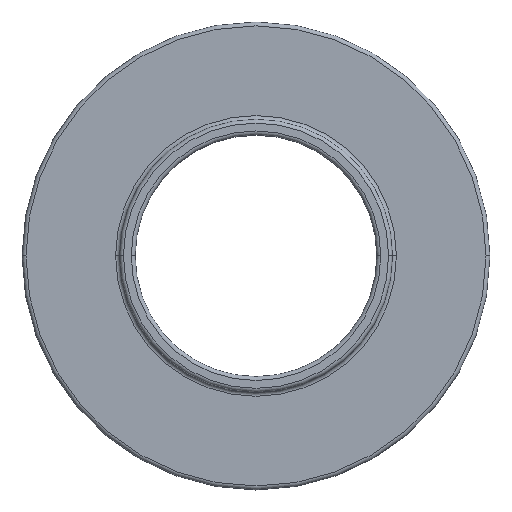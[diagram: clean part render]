
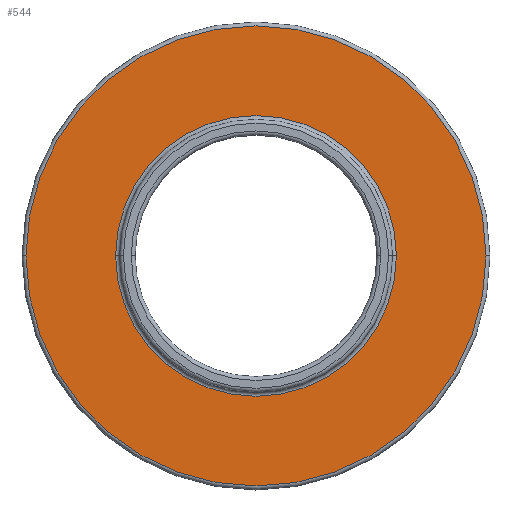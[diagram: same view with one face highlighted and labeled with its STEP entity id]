
A CAD part, top view. The second image highlights one B-rep face of the part: STEP entity #544.
In plain terms, the highlighted planar face has unit normal (0, 0, 1).
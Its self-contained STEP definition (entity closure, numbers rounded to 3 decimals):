
#187 = ORIENTED_EDGE ( 'NONE', *, *, #491, .T. ) ;
#230 = FACE_OUTER_BOUND ( 'NONE', #519, .T. ) ;
#231 = FACE_BOUND ( 'NONE', #576, .T. ) ;
#232 = PLANE ( 'NONE',  #233 ) ;
#233 = AXIS2_PLACEMENT_3D ( 'NONE', #234, #235, #236 ) ;
#234 = CARTESIAN_POINT ( 'NONE',  ( 0., 0., 1. ) ) ;
#235 = DIRECTION ( 'NONE',  ( 0., 0., 1. ) ) ;
#236 = DIRECTION ( 'NONE',  ( 1., 0., 0. ) ) ;
#265 = CARTESIAN_POINT ( 'NONE',  ( -2.95, 0., 1. ) ) ;
#282 = CARTESIAN_POINT ( 'NONE',  ( 1.8, 0., 1. ) ) ;
#283 = CIRCLE ( 'NONE', #284, 1.8 ) ;
#284 = AXIS2_PLACEMENT_3D ( 'NONE', #285, #286, #287 ) ;
#285 = CARTESIAN_POINT ( 'NONE',  ( 0., 0., 1. ) ) ;
#286 = DIRECTION ( 'NONE',  ( 0., 0., -1. ) ) ;
#287 = DIRECTION ( 'NONE',  ( 1., 0., 0. ) ) ;
#288 = CARTESIAN_POINT ( 'NONE',  ( -1.8, 0., 1. ) ) ;
#295 = CIRCLE ( 'NONE', #296, 2.95 ) ;
#296 = AXIS2_PLACEMENT_3D ( 'NONE', #297, #298, #299 ) ;
#297 = CARTESIAN_POINT ( 'NONE',  ( 0., 0., 1. ) ) ;
#298 = DIRECTION ( 'NONE',  ( 0., 0., 1. ) ) ;
#299 = DIRECTION ( 'NONE',  ( 1., 0., 0. ) ) ;
#310 = CARTESIAN_POINT ( 'NONE',  ( 2.95, 0., 1. ) ) ;
#333 = CIRCLE ( 'NONE', #334, 2.95 ) ;
#334 = AXIS2_PLACEMENT_3D ( 'NONE', #335, #336, #337 ) ;
#335 = CARTESIAN_POINT ( 'NONE',  ( 0., 0., 1. ) ) ;
#336 = DIRECTION ( 'NONE',  ( 0., 0., 1. ) ) ;
#337 = DIRECTION ( 'NONE',  ( 1., 0., 0. ) ) ;
#385 = CIRCLE ( 'NONE', #386, 1.8 ) ;
#386 = AXIS2_PLACEMENT_3D ( 'NONE', #387, #388, #389 ) ;
#387 = CARTESIAN_POINT ( 'NONE',  ( 0., 0., 1. ) ) ;
#388 = DIRECTION ( 'NONE',  ( 0., 0., -1. ) ) ;
#389 = DIRECTION ( 'NONE',  ( 1., 0., 0. ) ) ;
#421 = VERTEX_POINT ( 'NONE', #310 ) ;
#443 = EDGE_CURVE ( 'NONE', #488, #486, #385, .T. ) ;
#471 = ORIENTED_EDGE ( 'NONE', *, *, #498, .T. ) ;
#473 = ORIENTED_EDGE ( 'NONE', *, *, #443, .T. ) ;
#480 = VERTEX_POINT ( 'NONE', #265 ) ;
#486 = VERTEX_POINT ( 'NONE', #282 ) ;
#487 = EDGE_CURVE ( 'NONE', #486, #488, #283, .T. ) ;
#488 = VERTEX_POINT ( 'NONE', #288 ) ;
#491 = EDGE_CURVE ( 'NONE', #480, #421, #295, .T. ) ;
#498 = EDGE_CURVE ( 'NONE', #421, #480, #333, .T. ) ;
#519 = EDGE_LOOP ( 'NONE', ( #471, #187 ) ) ;
#537 = ORIENTED_EDGE ( 'NONE', *, *, #487, .T. ) ;
#544 = ADVANCED_FACE ( 'NONE', ( #230, #231 ), #232, .T. ) ;
#576 = EDGE_LOOP ( 'NONE', ( #537, #473 ) ) ;
